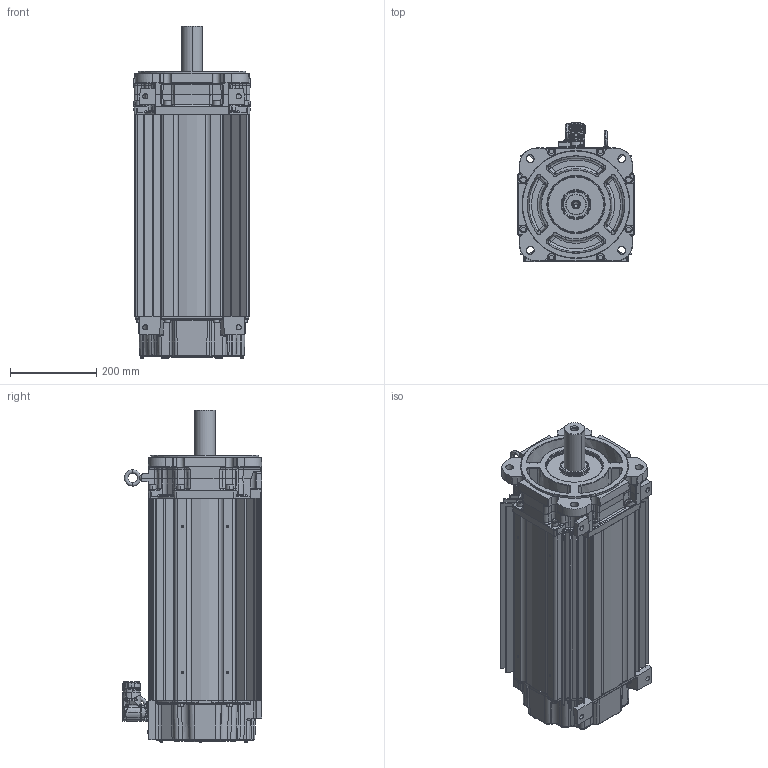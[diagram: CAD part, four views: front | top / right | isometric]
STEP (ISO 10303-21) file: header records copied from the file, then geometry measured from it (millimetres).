
FILE_DESCRIPTION((''),'2;1');
FILE_NAME('10001442216_ASM','2020-01-16T12:27:34',('VThimma'),('Rockwell Automation'),'CREO PARAMETRIC BY PTC INC, 2017380','CREO PARAMETRIC BY PTC INC, 2017380','');
FILE_SCHEMA(('CONFIG_CONTROL_DESIGN','SHAPE_APPEARANCE_LAYERS_GROUPS'));
Products named in the file (20): 10001441960; 10001404634_AF0; 10001404629_AF6; 10001404635_ASM; 10001585735; 10001442014_ASM; 10001439812_KEYLESS; 10001440033_ASM; 10001405269_AF27; 10001405369_ASM; 10001586887; 0002-5004; 10001609981; 10001737030; 10000801000; 10000801001; 10000801002_ASM; 221404-Q12; 10001408124; 10001442216_ASM
Assembly tree (42 placements, depth 4):
  10001442216_ASM
    10001442014_ASM
      10001441960
      10001404635_ASM
        10001404634_AF0
        10001404629_AF6
      10001585735  x8
    10001440033_ASM
      10001439812_KEYLESS
    10001405369_ASM
      10001405269_AF27
    10001586887  x7
    0002-5004  x2
    10001609981
    10001737030
    10000801002_ASM
      10000801000
      10000801001
    221404-Q12  x10
    10001408124
Bounding box: 269.49 x 324.1 x 768.83 mm (x, y, z)
Surface area: 2437585 mm2 (no closed solid volume)
Topology: 0 solids, 40 shells, 4485 faces, 11166 edges, 6823 vertices
Faces by surface type: cylinder 1439, plane 1231, bspline 754, torus 547, cone 443, sphere 64, extrusion 7
Entity records: 185060 total; most frequent: CARTESIAN_POINT 53934, ORIENTED_EDGE 17394, DIRECTION 16327, PRESENTATION_STYLE_ASSIGNMENT 12159, STYLED_ITEM 12159, CURVE_STYLE 8708, EDGE_CURVE 8701, AXIS2_PLACEMENT_3D 6410
